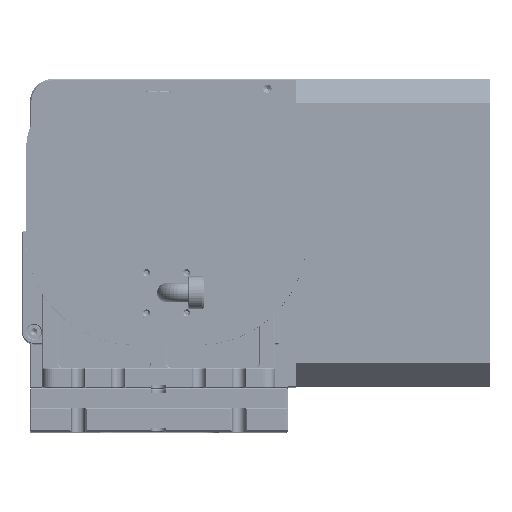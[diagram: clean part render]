
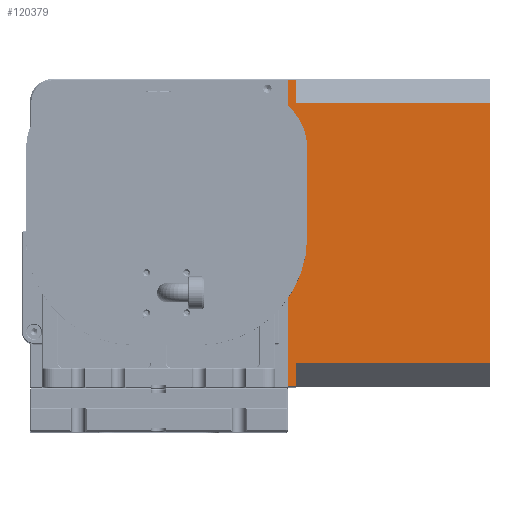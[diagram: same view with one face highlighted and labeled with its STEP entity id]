
A CAD part, top view. The second image highlights one B-rep face of the part: STEP entity #120379.
In plain terms, the highlighted planar face has unit normal (0, 0, 1).
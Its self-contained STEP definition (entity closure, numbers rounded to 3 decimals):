
#1680 = LINE ( 'NONE', #22202, #108246 ) ;
#3161 = CARTESIAN_POINT ( 'NONE',  ( 349.493, -170.72, 720.712 ) ) ;
#4931 = AXIS2_PLACEMENT_3D ( 'NONE', #56893, #74903, #96037 ) ;
#5824 = VERTEX_POINT ( 'NONE', #45780 ) ;
#7706 = ORIENTED_EDGE ( 'NONE', *, *, #45536, .T. ) ;
#11329 = ORIENTED_EDGE ( 'NONE', *, *, #86902, .F. ) ;
#11743 = CARTESIAN_POINT ( 'NONE',  ( 107.493, 181.28, 720.712 ) ) ;
#11785 = LINE ( 'NONE', #52890, #54228 ) ;
#12498 = DIRECTION ( 'NONE',  ( 1., 0., 0. ) ) ;
#12971 = CARTESIAN_POINT ( 'NONE',  ( 97.493, 183.28, 720.712 ) ) ;
#14910 = DIRECTION ( 'NONE',  ( 0., -1., 0. ) ) ;
#15777 = FACE_OUTER_BOUND ( 'NONE', #79486, .T. ) ;
#22202 = CARTESIAN_POINT ( 'NONE',  ( 107.493, 183.28, 720.712 ) ) ;
#22634 = CARTESIAN_POINT ( 'NONE',  ( 349.493, 183.28, 720.712 ) ) ;
#23328 = ORIENTED_EDGE ( 'NONE', *, *, #93519, .T. ) ;
#25573 = ORIENTED_EDGE ( 'NONE', *, *, #27229, .T. ) ;
#26530 = DIRECTION ( 'NONE',  ( -1., 0., 0. ) ) ;
#27229 = EDGE_CURVE ( 'NONE', #28665, #106051, #90544, .T. ) ;
#28523 = CARTESIAN_POINT ( 'NONE',  ( 97.493, -198.72, 720.712 ) ) ;
#28665 = VERTEX_POINT ( 'NONE', #100022 ) ;
#29132 = ORIENTED_EDGE ( 'NONE', *, *, #119742, .T. ) ;
#32156 = VERTEX_POINT ( 'NONE', #75091 ) ;
#39108 = LINE ( 'NONE', #66131, #89644 ) ;
#41519 = CARTESIAN_POINT ( 'NONE',  ( 107.493, -170.72, 720.712 ) ) ;
#43827 = EDGE_CURVE ( 'NONE', #106051, #48762, #39108, .T. ) ;
#44194 = VERTEX_POINT ( 'NONE', #106867 ) ;
#45536 = EDGE_CURVE ( 'NONE', #5824, #91373, #1680, .T. ) ;
#45780 = CARTESIAN_POINT ( 'NONE',  ( 107.493, 153.28, 720.712 ) ) ;
#48762 = VERTEX_POINT ( 'NONE', #3161 ) ;
#49361 = EDGE_CURVE ( 'NONE', #32156, #90568, #67129, .T. ) ;
#52170 = DIRECTION ( 'NONE',  ( 0., -1., 0. ) ) ;
#52890 = CARTESIAN_POINT ( 'NONE',  ( 349.493, -198.72, 720.712 ) ) ;
#54228 = VECTOR ( 'NONE', #70883, 1000. ) ;
#55405 = EDGE_CURVE ( 'NONE', #5824, #44194, #61969, .T. ) ;
#56280 = PLANE ( 'NONE',  #4931 ) ;
#56893 = CARTESIAN_POINT ( 'NONE',  ( 349.493, 183.28, 720.712 ) ) ;
#59532 = VECTOR ( 'NONE', #12498, 1000. ) ;
#61319 = CARTESIAN_POINT ( 'NONE',  ( 55.067, 153.28, 720.712 ) ) ;
#61969 = LINE ( 'NONE', #61319, #59532 ) ;
#66131 = CARTESIAN_POINT ( 'NONE',  ( 55.067, -170.72, 720.712 ) ) ;
#67129 = LINE ( 'NONE', #12971, #95396 ) ;
#70428 = DIRECTION ( 'NONE',  ( 0., 1., 0. ) ) ;
#70883 = DIRECTION ( 'NONE',  ( 1., 0., 0. ) ) ;
#72767 = VECTOR ( 'NONE', #14910, 1000. ) ;
#74903 = DIRECTION ( 'NONE',  ( 0., 0., -1. ) ) ;
#75091 = CARTESIAN_POINT ( 'NONE',  ( 97.493, 181.28, 720.712 ) ) ;
#75362 = LINE ( 'NONE', #114550, #94950 ) ;
#79486 = EDGE_LOOP ( 'NONE', ( #104900, #23328, #25573, #117935, #11329, #125405, #7706, #29132 ) ) ;
#86902 = EDGE_CURVE ( 'NONE', #44194, #48762, #102922, .T. ) ;
#89282 = CARTESIAN_POINT ( 'NONE',  ( 107.493, -170.72, 720.712 ) ) ;
#89644 = VECTOR ( 'NONE', #125878, 1000. ) ;
#90544 = LINE ( 'NONE', #89282, #98012 ) ;
#90568 = VERTEX_POINT ( 'NONE', #28523 ) ;
#91373 = VERTEX_POINT ( 'NONE', #11743 ) ;
#93519 = EDGE_CURVE ( 'NONE', #90568, #28665, #11785, .T. ) ;
#94950 = VECTOR ( 'NONE', #26530, 1000. ) ;
#95396 = VECTOR ( 'NONE', #52170, 1000. ) ;
#96037 = DIRECTION ( 'NONE',  ( 0., 1., 0. ) ) ;
#98012 = VECTOR ( 'NONE', #98908, 1000. ) ;
#98908 = DIRECTION ( 'NONE',  ( 0., 1., 0. ) ) ;
#100022 = CARTESIAN_POINT ( 'NONE',  ( 107.493, -198.72, 720.712 ) ) ;
#102922 = LINE ( 'NONE', #22634, #72767 ) ;
#104900 = ORIENTED_EDGE ( 'NONE', *, *, #49361, .T. ) ;
#106051 = VERTEX_POINT ( 'NONE', #41519 ) ;
#106867 = CARTESIAN_POINT ( 'NONE',  ( 349.493, 153.28, 720.712 ) ) ;
#108246 = VECTOR ( 'NONE', #70428, 1000. ) ;
#114550 = CARTESIAN_POINT ( 'NONE',  ( 349.493, 181.28, 720.712 ) ) ;
#117935 = ORIENTED_EDGE ( 'NONE', *, *, #43827, .T. ) ;
#119742 = EDGE_CURVE ( 'NONE', #91373, #32156, #75362, .T. ) ;
#120379 = ADVANCED_FACE ( 'NONE', ( #15777 ), #56280, .F. ) ;
#125405 = ORIENTED_EDGE ( 'NONE', *, *, #55405, .F. ) ;
#125878 = DIRECTION ( 'NONE',  ( 1., 0., 0. ) ) ;
